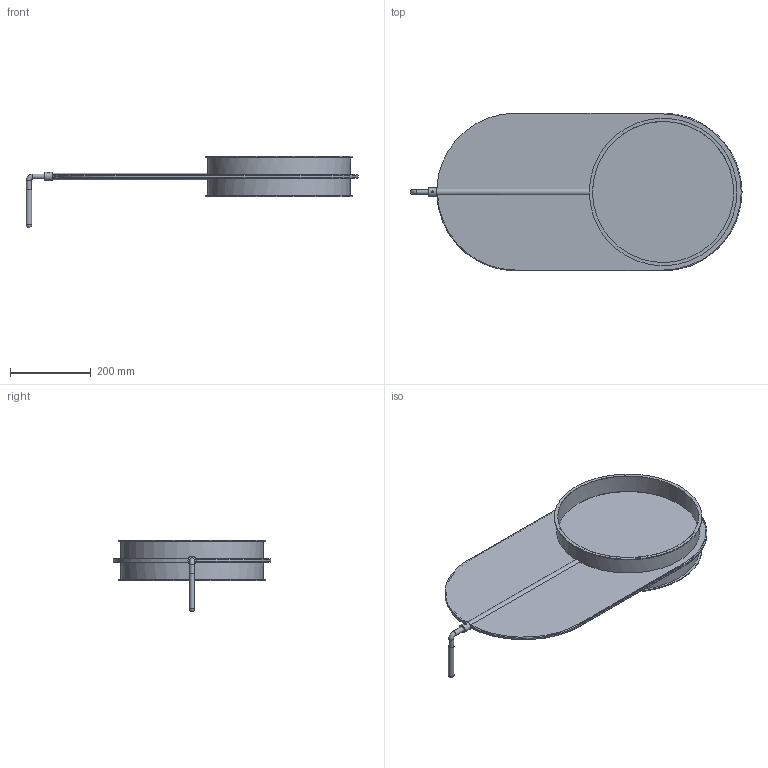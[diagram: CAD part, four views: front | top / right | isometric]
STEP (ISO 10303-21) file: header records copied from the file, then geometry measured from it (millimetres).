
FILE_DESCRIPTION((''),'2;1');
FILE_NAME('U:\Wolfgang\Marcel-3D\fertig\Kapitel 9\3521077.stp','2011-10-11T13:05:02',('iwienholt'),(''),'Autodesk Inventor 2010','Autodesk Inventor 2010','');
FILE_SCHEMA(('AUTOMOTIVE_DESIGN { 1 0 10303 214 1 1 1 1 }'));
Length unit declared in the file: millimetre
Products named in the file (3): 3521077; 3521077-1; Hebel-Ronde DN350
Assembly tree (2 placements, depth 2):
  3521077
    3521077-1
    Hebel-Ronde DN350
Bounding box: 820.96 x 390 x 176.95 mm (x, y, z)
Volume: 1184629.9 mm3; surface area: 1163574.7 mm2
Topology: 2 solids, 2 shells, 49 faces, 125 edges, 80 vertices
Faces by surface type: cylinder 24, plane 19, torus 5, sphere 1
Full cylindrical faces by diameter (mm): 4.917 x1, 12 x2, 12.5 x1, 14 x1, 16.5 x1, 20 x1, 349 x2, 353 x2, 365 x2
Entity records: 1642 total; most frequent: CARTESIAN_POINT 485, DIRECTION 234, ORIENTED_EDGE 196, AXIS2_PLACEMENT_3D 100, EDGE_CURVE 98, EDGE_LOOP 72, VERTEX_POINT 70, FACE_OUTER_BOUND 49
